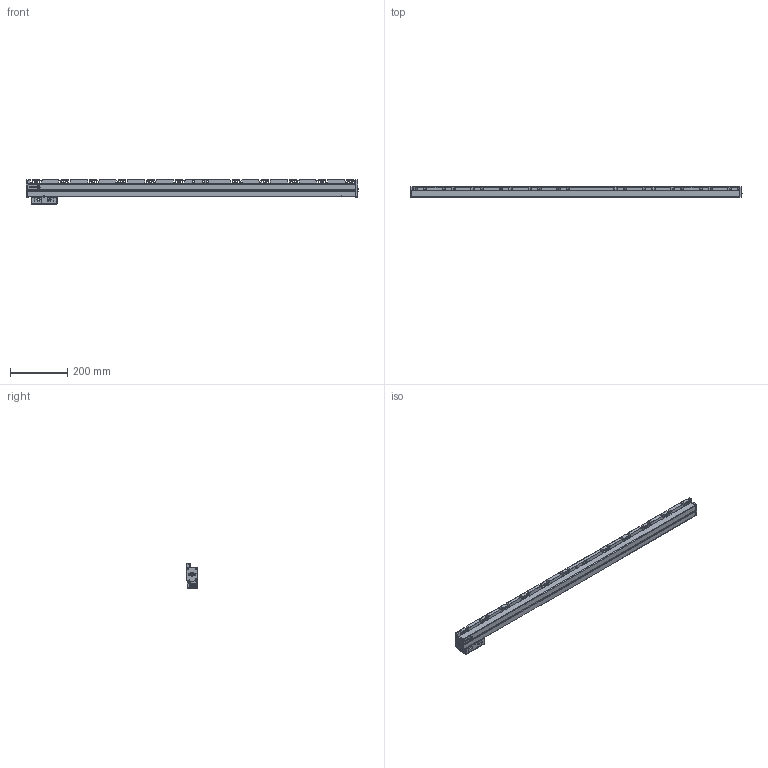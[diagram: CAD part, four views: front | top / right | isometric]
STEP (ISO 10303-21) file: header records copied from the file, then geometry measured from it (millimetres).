
FILE_DESCRIPTION(('Creo Elements/Direct Modeling STEP Export'),'2;1');
FILE_NAME('REGLA_G3-1040.stp','2019-05-31T13:39:16',(''),(''),'Creo Elements/Direct Modeling STEP processor for AP214 (Solid Model)','Creo Elements/Direct Modeling 19.0G 27-Nov-2017 (C) Parametric Technology GmbH','');
FILE_SCHEMA(('AUTOMOTIVE_DESIGN { 1 0 10303 214 1 1 1 1 }'));
Length unit declared in the file: millimetre
Products named in the file (3): CABEZA_ROSCADA_M8_G3; REGLA_G3-1040
Assembly tree (2 placements, depth 2):
  REGLA_G3-1040
    REGLA_G3-1040
    CABEZA_ROSCADA_M8_G3
Bounding box: 1161 x 37 x 85 mm (x, y, z)
Volume: 1921244.8 mm3; surface area: 284422.2 mm2
Topology: 2 solids, 37 shells, 2072 faces, 5883 edges, 3840 vertices
Faces by surface type: plane 951, cylinder 829, cone 232, torus 30, bspline 30
Entity records: 83173 total; most frequent: CARTESIAN_POINT 24477, ORIENTED_EDGE 11666, DIRECTION 9780, EDGE_CURVE 5817, VERTEX_POINT 3840, AXIS2_PLACEMENT_3D 3409, VECTOR 2962, LINE 2962
